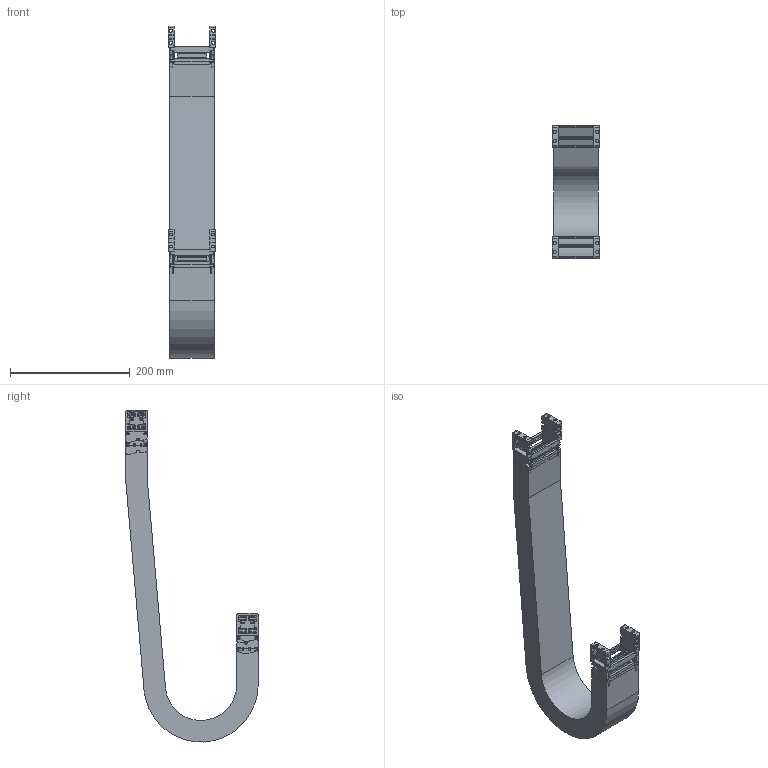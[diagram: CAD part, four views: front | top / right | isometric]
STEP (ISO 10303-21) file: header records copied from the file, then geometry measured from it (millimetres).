
FILE_DESCRIPTION((''),'2;1');
FILE_NAME('KST-25060-075_ASM','2017-12-05T',('KUNI004K'),(''),'PRO/ENGINEER BY PARAMETRIC TECHNOLOGY CORPORATION, 2015200','PRO/ENGINEER BY PARAMETRIC TECHNOLOGY CORPORATION, 2015200','');
FILE_SCHEMA(('AUTOMOTIVE_DESIGN { 1 0 10303 214 1 1 1 1 }'));
Length unit declared in the file: millimetre
Products named in the file (13): 25FBR; 25FBL; 25060C; KST25FBR_W060_ASM; 25075R; 25075L; 25060H; KST25060-075_1_ASM; KST25060_R75_BODY; 25MBR; 25MBL; KST25MBR_W060_ASM; KST-25060-075_ASM
Assembly tree (19 placements, depth 3):
  KST-25060-075_ASM
    KST25FBR_W060_ASM
      25FBR
      25FBL
      25060C  x2
    KST25060-075_1_ASM  x2
      25075R
      25075L
      25060C
      25060H
    KST25060_R75_BODY
    KST25MBR_W060_ASM
      25MBR
      25MBL
      25060C  x2
Bounding box: 80 x 221 x 554.21 mm (x, y, z)
Volume: 912474.6 mm3; surface area: 431682.7 mm2
Topology: 21 solids, 21 shells, 2564 faces, 7130 edges, 4624 vertices
Faces by surface type: plane 1330, cylinder 930, bspline 208, sphere 64, torus 32
Entity records: 68639 total; most frequent: CARTESIAN_POINT 14290, ORIENTED_EDGE 7396, DIRECTION 6500, PRESENTATION_STYLE_ASSIGNMENT 4998, STYLED_ITEM 4998, CURVE_STYLE 3698, EDGE_CURVE 3698, VECTOR 2454
